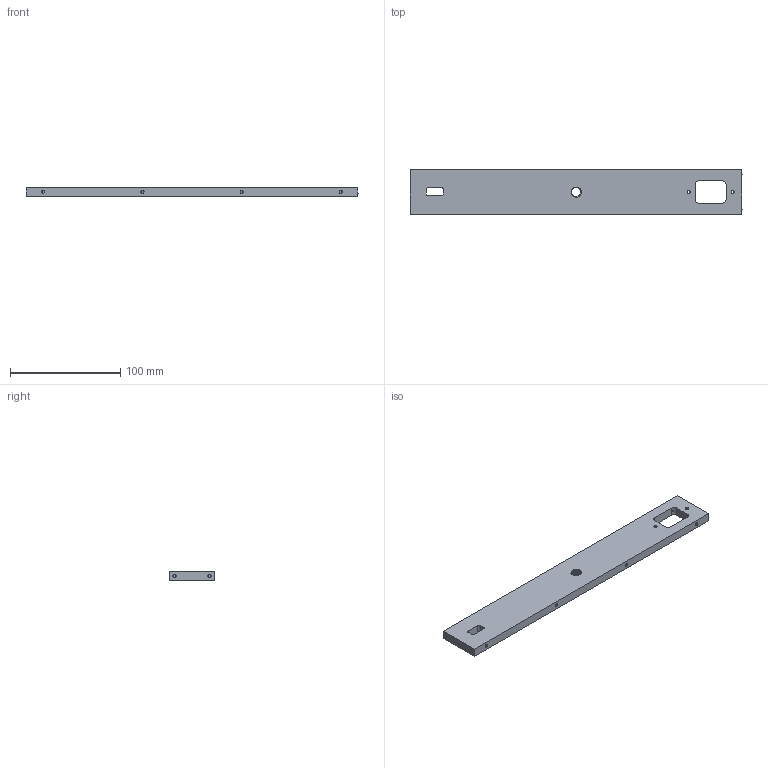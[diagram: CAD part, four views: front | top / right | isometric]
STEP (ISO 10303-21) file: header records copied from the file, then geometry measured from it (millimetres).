
FILE_DESCRIPTION (( 'STEP AP214' ), '1' );
FILE_NAME ('Baseplate.STEP', '2022-05-03T08:48:19', ( '' ), ( '' ), 'SwSTEP 2.0', 'SolidWorks 2022', '' );
FILE_SCHEMA (( 'AUTOMOTIVE_DESIGN' ));
Length unit declared in the file: millimetre
Products named in the file (1): Baseplate
Bounding box: 301 x 40 x 8 mm (x, y, z)
Volume: 89696.2 mm3; surface area: 31328.5 mm2
Topology: 1 solids, 1 shells, 625 faces, 1815 edges, 1204 vertices
Faces by surface type: cylinder 542, bspline 45, plane 38
Entity records: 51913 total; most frequent: CARTESIAN_POINT 38821, ORIENTED_EDGE 3630, DIRECTION 1905, EDGE_CURVE 1815, VERTEX_POINT 1204, EDGE_LOOP 647, AXIS2_PLACEMENT_3D 641, FACE_OUTER_BOUND 625
